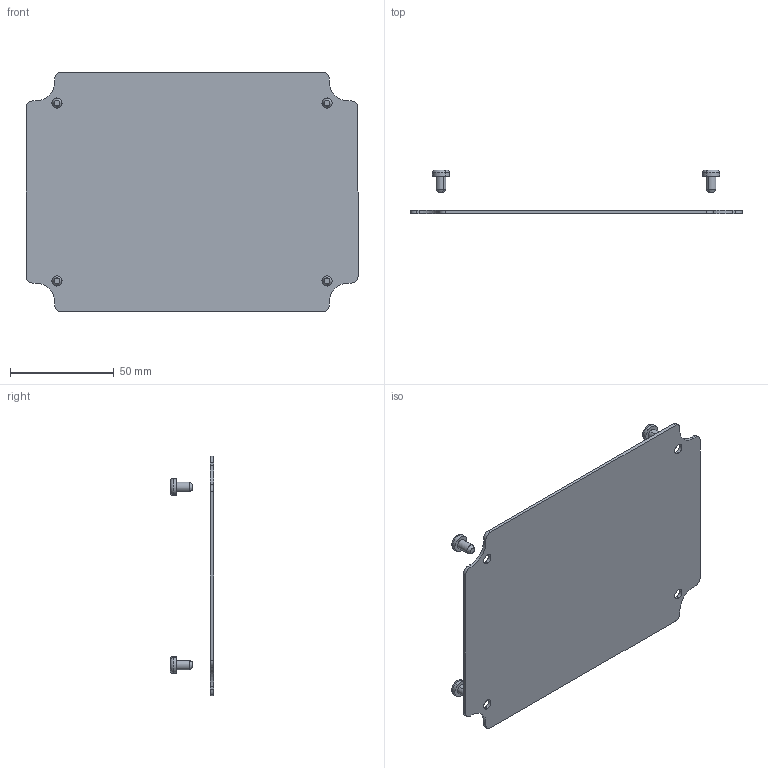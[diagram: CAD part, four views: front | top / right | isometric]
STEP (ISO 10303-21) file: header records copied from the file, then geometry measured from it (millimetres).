
FILE_DESCRIPTION (( 'STEP AP214' ), '1' );
FILE_NAME ('HN-57default.STEP', '2025-12-03T20:27:27', ( '' ), ( '' ), 'SwSTEP 2.0', 'SolidWorks 2025', '' );
FILE_SCHEMA (( 'AUTOMOTIVE_DESIGN' ));
Length unit declared in the file: inch
Products named in the file (3): HN-57default; SCREWS-032_SCREWS-032; HN-57P_default
Assembly tree (5 placements, depth 2):
  HN-57default
    HN-57P_default
    SCREWS-032_SCREWS-032  x4
Bounding box: 160.02 x 20.95 x 115.57 mm (x, y, z)
Volume: 29138 mm3; surface area: 37551.3 mm2
Topology: 5 solids, 5 shells, 146 faces, 368 edges, 240 vertices
Faces by surface type: plane 94, cylinder 36, cone 8, torus 8
Entity records: 2068 total; most frequent: DIRECTION 358, CARTESIAN_POINT 342, ORIENTED_EDGE 328, EDGE_CURVE 164, AXIS2_PLACEMENT_3D 124, LINE 110, VECTOR 110, VERTEX_POINT 108
